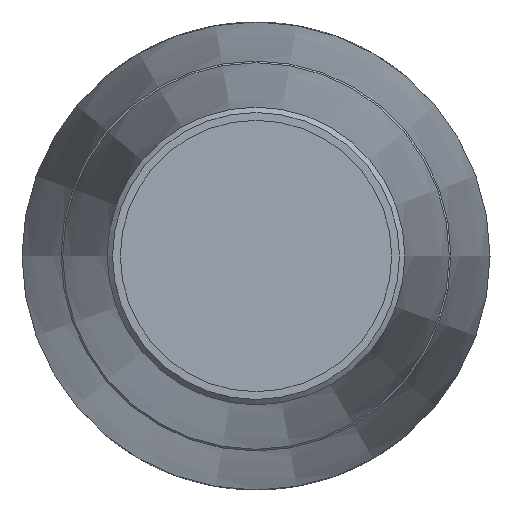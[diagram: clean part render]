
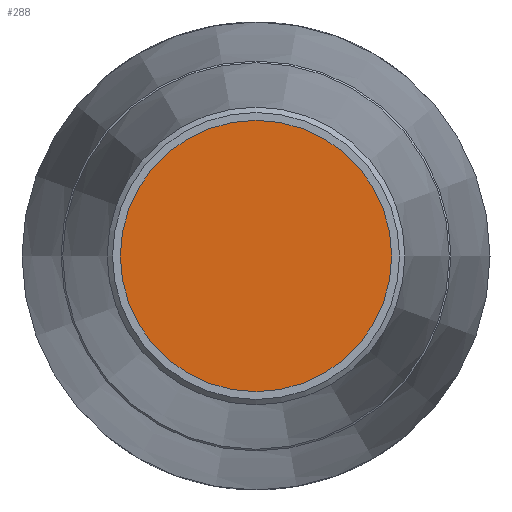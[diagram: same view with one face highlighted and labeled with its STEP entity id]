
A CAD part, left-side view. The second image highlights one B-rep face of the part: STEP entity #288.
In plain terms, the highlighted planar face has unit normal (-1, 0, 0).
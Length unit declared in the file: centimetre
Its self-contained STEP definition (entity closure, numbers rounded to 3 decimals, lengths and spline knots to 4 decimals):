
#42=PLANE('',#323);
#73=FACE_OUTER_BOUND('',#104,.T.);
#104=EDGE_LOOP('',(#210));
#132=CIRCLE('',#322,2.725);
#148=VERTEX_POINT('',#455);
#172=EDGE_CURVE('',#148,#148,#132,.T.);
#210=ORIENTED_EDGE('',*,*,#172,.T.);
#288=ADVANCED_FACE('',(#73),#42,.T.);
#322=AXIS2_PLACEMENT_3D('',#456,#383,#384);
#323=AXIS2_PLACEMENT_3D('',#457,#385,#386);
#383=DIRECTION('center_axis',(-1.,0.,0.));
#384=DIRECTION('ref_axis',(0.,0.,1.));
#385=DIRECTION('center_axis',(-1.,0.,0.));
#386=DIRECTION('ref_axis',(0.,0.,1.));
#455=CARTESIAN_POINT('',(-25.6,-2.725,0.));
#456=CARTESIAN_POINT('Origin',(-25.6,0.,0.));
#457=CARTESIAN_POINT('Origin',(-25.6,0.,0.));
